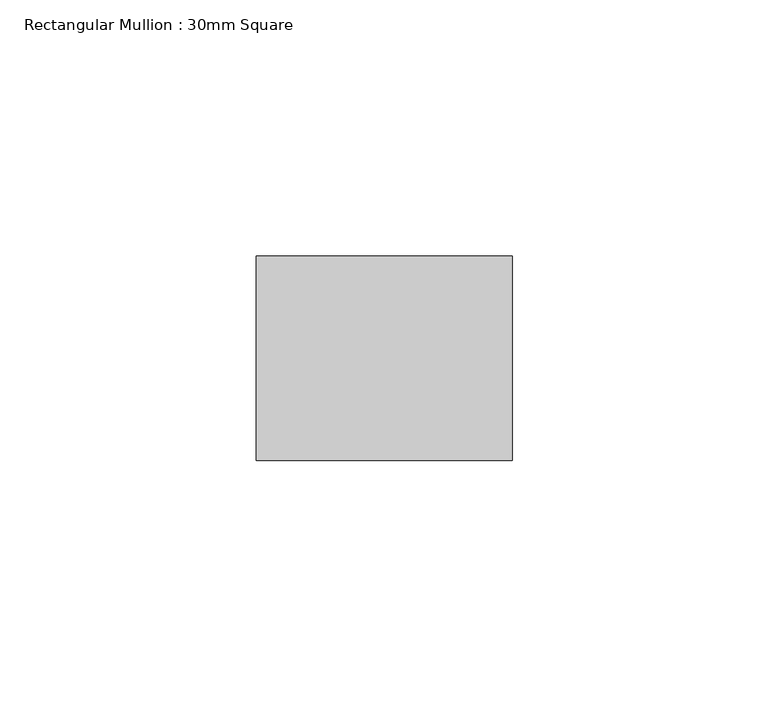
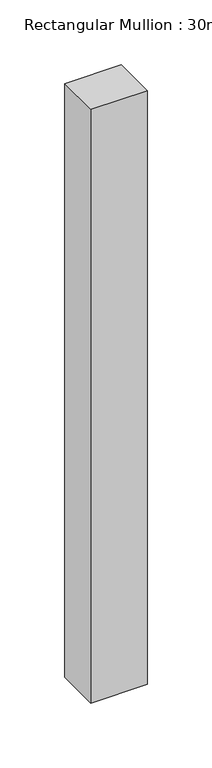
"""IFC4 building model written with IfcOpenShell, lengths in millimetres: member geometry, Rectangular Mullion : 30mm Square."""

from ifc_helpers import new_model, si_unit, frame, origin, place, context, project, spatial, polyline, outline, extrude, source, transform, mapped, element, save


def rectangular_mullion_30mm_square_5c36246a(model_context):
    return source(origin(), model_context, "Body", "SweptSolid", [
        extrude(outline(polyline([(25.0, 20.0), (25.0, -20.0), (-25.0, -20.0), (-25.0, 20.0), (25.0, 20.0)])), frame((0.0, 0.0, -558.4400063), z_axis=(0.0, 0.0, 1.0), x_axis=(1.0, 0.0, 0.0)), (0.0, 0.0, 1.0), 558.4400063),
    ])


if __name__ == "__main__":
    model = new_model("IFC4")
    model_context = context("Model", 3, world=origin())
    ifc_project = project(units=[si_unit("LENGTHUNIT", "METRE", prefix="MILLI")], contexts=[model_context])
    site = spatial("IfcSite", under=ifc_project)
    building = spatial("IfcBuilding", under=site)
    placement = place(None, origin())
    rectangular_mullion_30mm_square_shape = rectangular_mullion_30mm_square_5c36246a(model_context)
    element("IfcMember", 1, ObjectType="Rectangular Mullion : 30mm Square", at=placement, inside=building, context=model_context, shape_type="MappedRepresentation", body=[
        mapped(rectangular_mullion_30mm_square_shape, transform((0.0, 0.0, 0.0), x_axis=(1.0, 0.0, 0.0), y_axis=(0.0, 1.0, 0.0), z_axis=(0.0, 0.0, 1.0))),
    ])
    save(model, "model.ifc")
